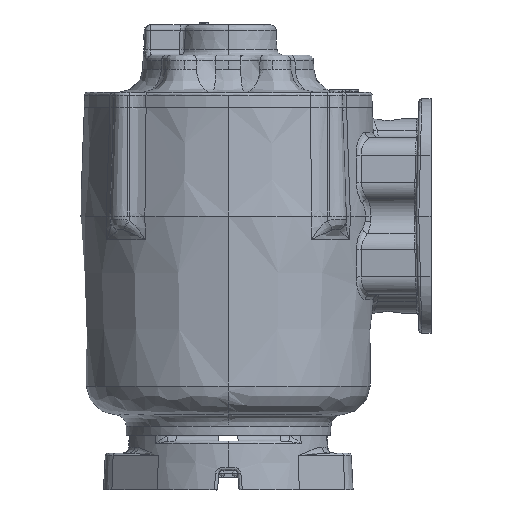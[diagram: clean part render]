
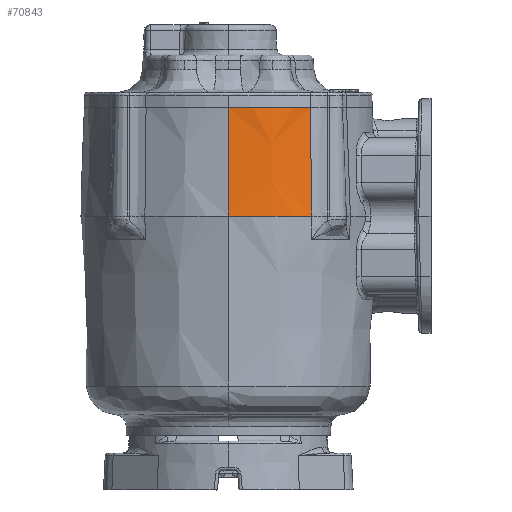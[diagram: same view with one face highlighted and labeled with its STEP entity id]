
A CAD part, left-side view. The second image highlights one B-rep face of the part: STEP entity #70843.
In plain terms, the highlighted conical face has half-angle 2 degrees and reference radius 78.232 mm.
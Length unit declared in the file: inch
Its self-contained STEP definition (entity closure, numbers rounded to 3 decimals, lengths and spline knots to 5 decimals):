
#2614 = CARTESIAN_POINT ( 'NONE',  ( -3.5037, 0.27743, 2.61184 ) ) ;
#3673 = CARTESIAN_POINT ( 'NONE',  ( -3.71447, 0.6815, 2.61184 ) ) ;
#6438 = CARTESIAN_POINT ( 'NONE',  ( -0.95267, 1.86514, 0.34734 ) ) ;
#8069 = CONICAL_SURFACE ( 'NONE', #55859, 3.08, 0.035 ) ;
#10403 = CARTESIAN_POINT ( 'NONE',  ( -3.42547, 0.15023, 2.37267 ) ) ;
#13026 = FACE_OUTER_BOUND ( 'NONE', #87395, .T. ) ;
#13222 = CARTESIAN_POINT ( 'NONE',  ( -3.41704, 0.15272, 2.61184 ) ) ;
#13547 = DIRECTION ( 'NONE',  ( -1., 0., 0. ) ) ;
#17348 = CARTESIAN_POINT ( 'NONE',  ( -3.49514, 0.1292, 0.38781 ) ) ;
#18129 = CARTESIAN_POINT ( 'NONE',  ( -3.95359, 1.71328, 2.61184 ) ) ;
#18439 = CARTESIAN_POINT ( 'NONE',  ( -3.44599, 0.1441, 1.78987 ) ) ;
#22187 = CARTESIAN_POINT ( 'NONE',  ( -4.03267, 1.86514, 0.34734 ) ) ;
#26159 = VERTEX_POINT ( 'NONE', #40543 ) ;
#28756 = ORIENTED_EDGE ( 'NONE', *, *, #97343, .T. ) ;
#29473 = VERTEX_POINT ( 'NONE', #13222 ) ;
#30227 = CARTESIAN_POINT ( 'NONE',  ( -4.03267, 1.86514, 0.34734 ) ) ;
#31219 = VECTOR ( 'NONE', #46206, 39.37008 ) ;
#36263 = CARTESIAN_POINT ( 'NONE',  ( -3.94204, 1.56141, 2.61184 ) ) ;
#39009 = DIRECTION ( 'NONE',  ( 0., -1., 0. ) ) ;
#40543 = CARTESIAN_POINT ( 'NONE',  ( -3.95359, 1.86514, 2.61184 ) ) ;
#40927 = CARTESIAN_POINT ( 'NONE',  ( -3.49656, 0.12877, 0.34734 ) ) ;
#42987 = CARTESIAN_POINT ( 'NONE',  ( -3.4173, 0.15264, 2.60448 ) ) ;
#43745 = CARTESIAN_POINT ( 'NONE',  ( -3.86172, 1.11281, 2.61184 ) ) ;
#44208 = B_SPLINE_CURVE_WITH_KNOTS ( 'NONE', 3,
 ( #60064, #17348, #83059, #58465, #57936, #99075, #67040, #82523, #59001, #91604, #18439, #51005, #10403, #42987, #75568, #45083 ),
 .UNSPECIFIED., .F., .F.,
 ( 4, 2, 2, 2, 2, 2, 2, 4 ),
 ( 0., 0.05557, 0.24359, 0.3376, 0.48803, 0.7287, 0.9957, 1. ),
 .UNSPECIFIED. ) ;
#45083 = CARTESIAN_POINT ( 'NONE',  ( -3.41704, 0.15272, 2.61184 ) ) ;
#46206 = DIRECTION ( 'NONE',  ( -0.035, 0., -0.999 ) ) ;
#46222 = ORIENTED_EDGE ( 'NONE', *, *, #81323, .T. ) ;
#46663 = ORIENTED_EDGE ( 'NONE', *, *, #96544, .F. ) ;
#49708 = ORIENTED_EDGE ( 'NONE', *, *, #70820, .F. ) ;
#50581 = VERTEX_POINT ( 'NONE', #40927 ) ;
#51005 = CARTESIAN_POINT ( 'NONE',  ( -3.4333, 0.1479, 2.15065 ) ) ;
#52959 = DIRECTION ( 'NONE',  ( 0., 0., -1. ) ) ;
#55859 = AXIS2_PLACEMENT_3D ( 'NONE', #85162, #60589, #13547 ) ;
#57936 = CARTESIAN_POINT ( 'NONE',  ( -3.48095, 0.13354, 0.79356 ) ) ;
#58465 = CARTESIAN_POINT ( 'NONE',  ( -3.48717, 0.13165, 0.61594 ) ) ;
#59001 = CARTESIAN_POINT ( 'NONE',  ( -3.45817, 0.14044, 1.44296 ) ) ;
#59767 = CARTESIAN_POINT ( 'NONE',  ( -3.41704, 0.15272, 2.61184 ) ) ;
#60064 = CARTESIAN_POINT ( 'NONE',  ( -3.49656, 0.12877, 0.34734 ) ) ;
#60413 = VERTEX_POINT ( 'NONE', #30227 ) ;
#60589 = DIRECTION ( 'NONE',  ( 0., 0., -1. ) ) ;
#67040 = CARTESIAN_POINT ( 'NONE',  ( -3.46694, 0.13779, 1.19319 ) ) ;
#68866 = CARTESIAN_POINT ( 'NONE',  ( -3.8961, 1.26118, 2.61184 ) ) ;
#70820 = EDGE_CURVE ( 'NONE', #50581, #29473, #44208, .T. ) ;
#70843 = ADVANCED_FACE ( 'NONE', ( #13026 ), #8069, .F. ) ;
#74751 = CARTESIAN_POINT ( 'NONE',  ( -3.58087, 0.40873, 2.61184 ) ) ;
#75568 = CARTESIAN_POINT ( 'NONE',  ( -3.41717, 0.15268, 2.60816 ) ) ;
#75808 = CARTESIAN_POINT ( 'NONE',  ( -3.95359, 1.86514, 2.61184 ) ) ;
#76853 = CARTESIAN_POINT ( 'NONE',  ( -3.7709, 0.82297, 2.61184 ) ) ;
#81323 = EDGE_CURVE ( 'NONE', #50581, #60413, #103426, .T. ) ;
#82523 = CARTESIAN_POINT ( 'NONE',  ( -3.46061, 0.13971, 1.37358 ) ) ;
#83059 = CARTESIAN_POINT ( 'NONE',  ( -3.49369, 0.12965, 0.42926 ) ) ;
#85162 = CARTESIAN_POINT ( 'NONE',  ( -0.95267, 1.86514, 0.34734 ) ) ;
#87395 = EDGE_LOOP ( 'NONE', ( #46663, #28756, #49708, #46222 ) ) ;
#89603 = B_SPLINE_CURVE_WITH_KNOTS ( 'NONE', 3,
 ( #75808, #18129, #36263, #68866, #43745, #76853, #3673, #74751, #2614, #59767 ),
 .UNSPECIFIED., .F., .F.,
 ( 4, 2, 2, 2, 4 ),
 ( 0.5, 0.625, 0.75, 0.875, 1. ),
 .UNSPECIFIED. ) ;
#91604 = CARTESIAN_POINT ( 'NONE',  ( -3.45086, 0.14264, 1.65111 ) ) ;
#96544 = EDGE_CURVE ( 'NONE', #26159, #60413, #104944, .T. ) ;
#97343 = EDGE_CURVE ( 'NONE', #26159, #29473, #89603, .T. ) ;
#99075 = CARTESIAN_POINT ( 'NONE',  ( -3.47083, 0.13661, 1.08218 ) ) ;
#101775 = AXIS2_PLACEMENT_3D ( 'NONE', #6438, #52959, #39009 ) ;
#103426 = CIRCLE ( 'NONE', #101775, 3.08 ) ;
#104944 = LINE ( 'NONE', #22187, #31219 ) ;
